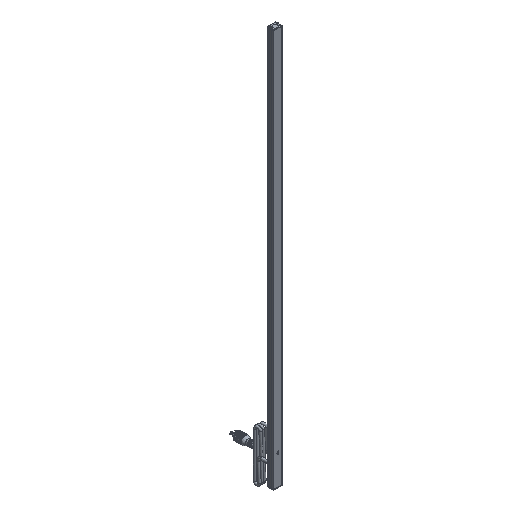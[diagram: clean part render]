
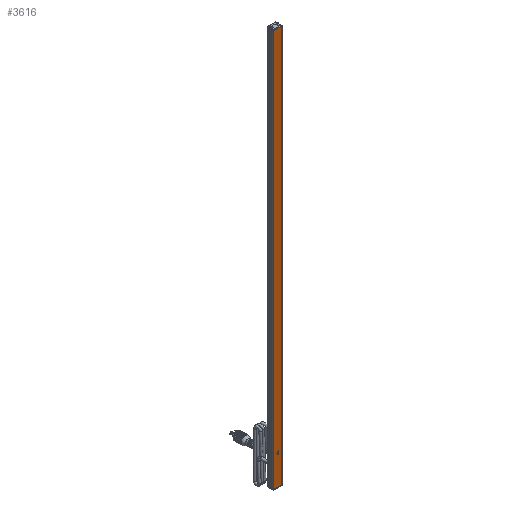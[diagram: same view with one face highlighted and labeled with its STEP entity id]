
A CAD part, isometric view. The second image highlights one B-rep face of the part: STEP entity #3616.
In plain terms, the highlighted planar face has unit normal (0, -1, 0).
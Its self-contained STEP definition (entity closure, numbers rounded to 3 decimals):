
#3338=CARTESIAN_POINT('',(18.421,0.,1778.0));
#3339=VERTEX_POINT('',#3338);
#3347=CARTESIAN_POINT('',(18.421,0.,0.0));
#3348=VERTEX_POINT('',#3347);
#3349=CARTESIAN_POINT('',(18.421,0.0,1778.0));
#3350=DIRECTION('',(0.0,0.0,-1.0));
#3351=VECTOR('',#3350,1778.0);
#3352=LINE('',#3349,#3351);
#3353=EDGE_CURVE('',#3339,#3348,#3352,.T.);
#3379=CARTESIAN_POINT('',(-18.421,0.,0.0));
#3380=VERTEX_POINT('',#3379);
#3381=CARTESIAN_POINT('',(-18.421,0.,0.0));
#3382=DIRECTION('',(1.0,0.0,0.0));
#3383=VECTOR('',#3382,36.842);
#3384=LINE('',#3381,#3383);
#3385=EDGE_CURVE('',#3380,#3348,#3384,.T.);
#3593=CARTESIAN_POINT('',(18.735,0.0,0.0));
#3594=DIRECTION('',(0.0,-1.0,0.0));
#3595=DIRECTION('',(0.0,0.0,-1.0));
#3596=AXIS2_PLACEMENT_3D('',#3593,#3594,#3595);
#3597=PLANE('',#3596);
#3598=ORIENTED_EDGE('',*,*,#3353,.F.);
#3599=CARTESIAN_POINT('',(-18.421,0.,1778.0));
#3600=VERTEX_POINT('',#3599);
#3601=CARTESIAN_POINT('',(18.421,0.,1778.0));
#3602=DIRECTION('',(-1.0,0.0,0.0));
#3603=VECTOR('',#3602,36.842);
#3604=LINE('',#3601,#3603);
#3605=EDGE_CURVE('',#3339,#3600,#3604,.T.);
#3606=ORIENTED_EDGE('',*,*,#3605,.T.);
#3607=CARTESIAN_POINT('',(-18.421,0.0,0.0));
#3608=DIRECTION('',(0.0,0.0,1.0));
#3609=VECTOR('',#3608,1778.0);
#3610=LINE('',#3607,#3609);
#3611=EDGE_CURVE('',#3380,#3600,#3610,.T.);
#3612=ORIENTED_EDGE('',*,*,#3611,.F.);
#3613=ORIENTED_EDGE('',*,*,#3385,.T.);
#3614=EDGE_LOOP('',(#3598,#3606,#3612,#3613));
#3615=FACE_OUTER_BOUND('',#3614,.T.);
#3616=ADVANCED_FACE('',(#3615),#3597,.T.);
